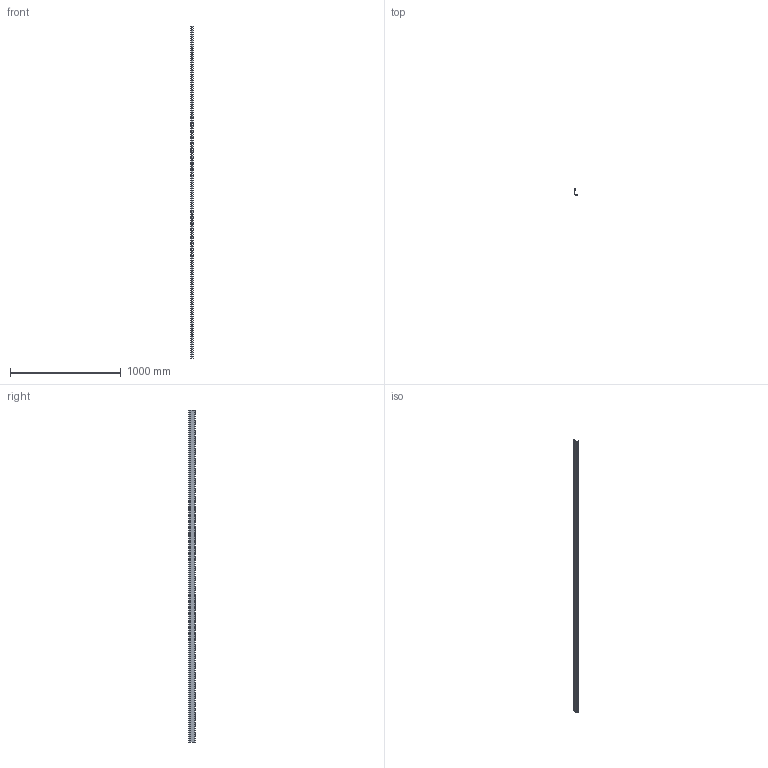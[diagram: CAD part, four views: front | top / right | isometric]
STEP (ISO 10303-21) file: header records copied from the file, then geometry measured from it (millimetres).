
FILE_DESCRIPTION (( 'STEP AP203' ), '1' );
FILE_NAME ('PS 60.STEP', '2020-02-12T08:06:35', ( '' ), ( '' ), 'SwSTEP 2.0', 'SolidWorks 2019', '' );
FILE_SCHEMA (( 'CONFIG_CONTROL_DESIGN' ));
Length unit declared in the file: millimetre
Products named in the file (1): PS 60
Bounding box: 20 x 54.5 x 3000 mm (x, y, z)
Volume: 155810.7 mm3; surface area: 452607.4 mm2
Topology: 1 solids, 1 shells, 484 faces, 1382 edges, 900 vertices
Faces by surface type: plane 258, cylinder 226
Entity records: 16147 total; most frequent: DIRECTION 2804, CARTESIAN_POINT 2767, ORIENTED_EDGE 2764, EDGE_CURVE 1382, AXIS2_PLACEMENT_3D 937, VECTOR 930, LINE 930, VERTEX_POINT 900
